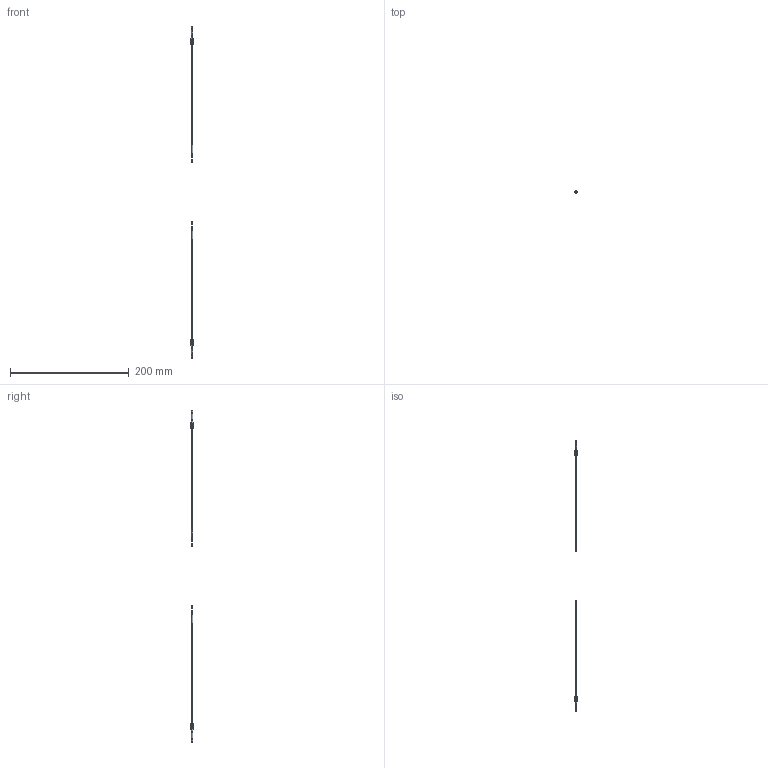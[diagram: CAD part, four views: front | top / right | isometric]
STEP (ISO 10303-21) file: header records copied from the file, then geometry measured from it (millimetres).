
FILE_DESCRIPTION (( 'STEP AP214' ), '1' );
FILE_NAME ('FTCS-220-05.STEP', '2019-06-18T02:26:12', ( '' ), ( '' ), 'SwSTEP 2.0', 'SolidWorks 2018', '' );
FILE_SCHEMA (( 'AUTOMOTIVE_DESIGN' ));
Length unit declared in the file: millimetre
Products named in the file (1): FTCS-220-05
Bounding box: 3.99 x 3.99 x 560 mm (x, y, z)
Volume: 749.4 mm3; surface area: 1985.1 mm2
Topology: 2 solids, 2 shells, 186 faces, 420 edges, 256 vertices
Faces by surface type: plane 106, cylinder 60, torus 12, cone 8
Entity records: 5449 total; most frequent: CARTESIAN_POINT 1151, DIRECTION 870, ORIENTED_EDGE 840, EDGE_CURVE 420, AXIS2_PLACEMENT_3D 359, VERTEX_POINT 256, EDGE_LOOP 204, FACE_OUTER_BOUND 186
